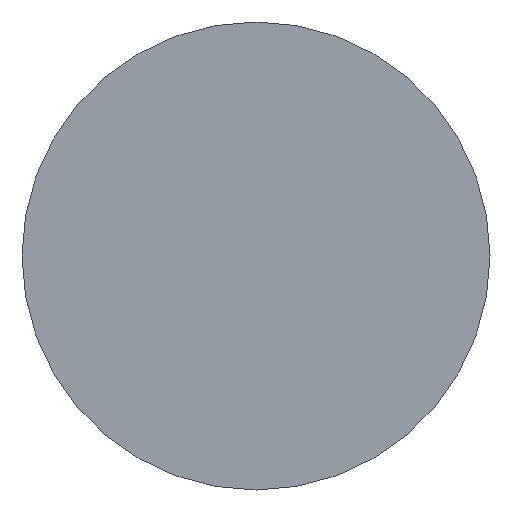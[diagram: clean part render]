
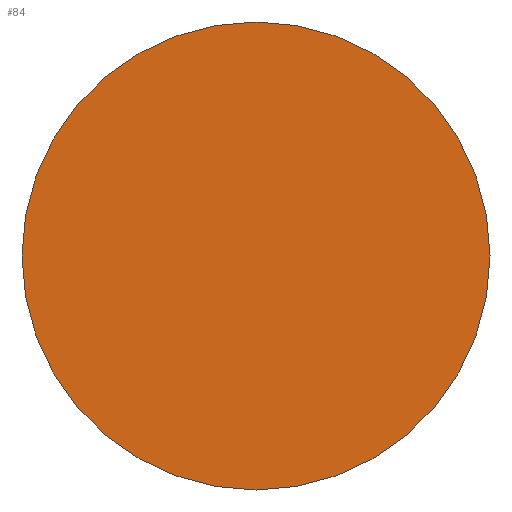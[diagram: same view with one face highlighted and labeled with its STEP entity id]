
A CAD part, front view. The second image highlights one B-rep face of the part: STEP entity #84.
In plain terms, the highlighted planar face has unit normal (0, -1, 0).
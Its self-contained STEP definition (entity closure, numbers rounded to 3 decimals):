
#17=PLANE('',#111);
#30=FACE_OUTER_BOUND('',#37,.T.);
#37=EDGE_LOOP('',(#77));
#44=CIRCLE('',#110,2.285);
#50=VERTEX_POINT('',#160);
#58=EDGE_CURVE('',#50,#50,#44,.T.);
#77=ORIENTED_EDGE('',*,*,#58,.F.);
#84=ADVANCED_FACE('',(#30),#17,.T.);
#110=AXIS2_PLACEMENT_3D('',#161,#137,#138);
#111=AXIS2_PLACEMENT_3D('',#163,#140,#141);
#137=DIRECTION('center_axis',(0.,1.,0.));
#138=DIRECTION('ref_axis',(1.,0.,0.));
#140=DIRECTION('center_axis',(0.,-1.,0.));
#141=DIRECTION('ref_axis',(1.,0.,0.));
#160=CARTESIAN_POINT('',(-2.285,-1.,0.));
#161=CARTESIAN_POINT('Origin',(0.,-1.,0.));
#163=CARTESIAN_POINT('Origin',(0.,-1.,0.));
